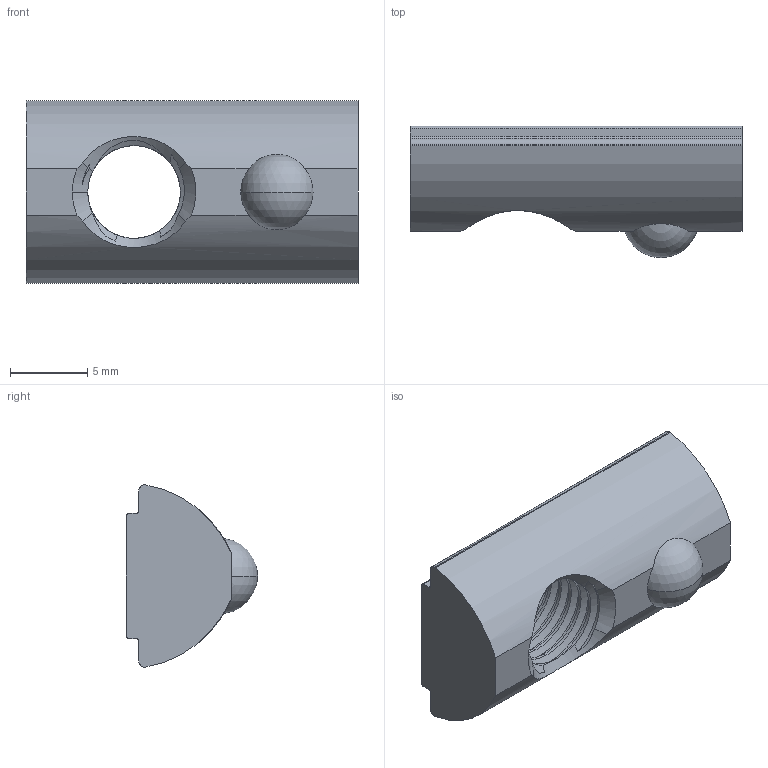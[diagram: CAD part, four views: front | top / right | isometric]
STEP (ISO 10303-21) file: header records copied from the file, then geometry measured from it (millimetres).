
FILE_DESCRIPTION (( 'STEP AP214' ), '1' );
FILE_NAME ('Spring Ball Loaded Nut - T-Slot - 30 Series - M6.STEP', '2024-10-08T00:23:06', ( '' ), ( '' ), 'SwSTEP 2.0', 'SolidWorks 2024', '' );
FILE_SCHEMA (( 'AUTOMOTIVE_DESIGN' ));
Length unit declared in the file: millimetre
Products named in the file (1): Spring Ball Loaded Nut - T-Slot - 30 Series - M6
Bounding box: 21.5 x 8.5 x 11.8 mm (x, y, z)
Volume: 1113.2 mm3; surface area: 904.3 mm2
Topology: 1 solids, 1 shells, 49 faces, 144 edges, 96 vertices
Faces by surface type: cylinder 22, bspline 13, plane 10, sphere 2, cone 2
Entity records: 6275 total; most frequent: CARTESIAN_POINT 5118, ORIENTED_EDGE 288, DIRECTION 175, EDGE_CURVE 144, VERTEX_POINT 96, AXIS2_PLACEMENT_3D 65, B_SPLINE_CURVE_WITH_KNOTS 54, EDGE_LOOP 50
